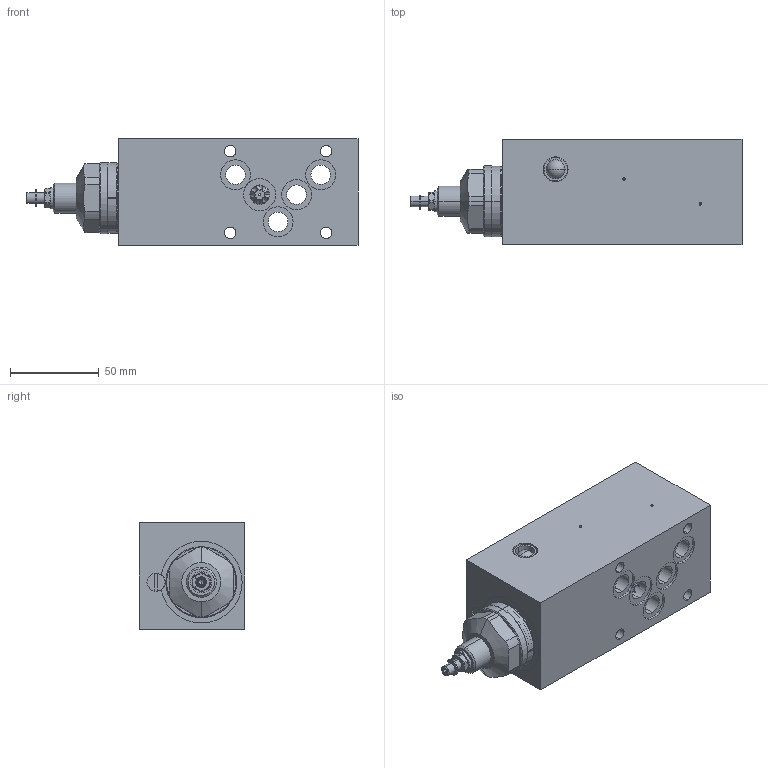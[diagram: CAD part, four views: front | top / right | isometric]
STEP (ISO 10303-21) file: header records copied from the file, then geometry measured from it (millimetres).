
FILE_DESCRIPTION (( 'STEP AP214' ), '1' );
FILE_NAME ('QZSSA10-A.STEP', '2017-04-12T13:59:14', ( '' ), ( '' ), 'SwSTEP 2.0', 'SolidWorks 2016', '' );
FILE_SCHEMA (( 'AUTOMOTIVE_DESIGN' ));
Length unit declared in the file: millimetre
Products named in the file (1): QZSSA10-A
Bounding box: 187 x 59.5 x 60 mm (x, y, z)
Volume: 472379.4 mm3; surface area: 63226.3 mm2
Topology: 4 solids, 6 shells, 320 faces, 783 edges, 486 vertices
Faces by surface type: cylinder 142, plane 98, cone 56, torus 20, sphere 4
Entity records: 13431 total; most frequent: CARTESIAN_POINT 2310, DIRECTION 1663, ORIENTED_EDGE 1538, EDGE_CURVE 769, AXIS2_PLACEMENT_3D 691, VERTEX_POINT 486, CIRCLE 370, EDGE_LOOP 367
